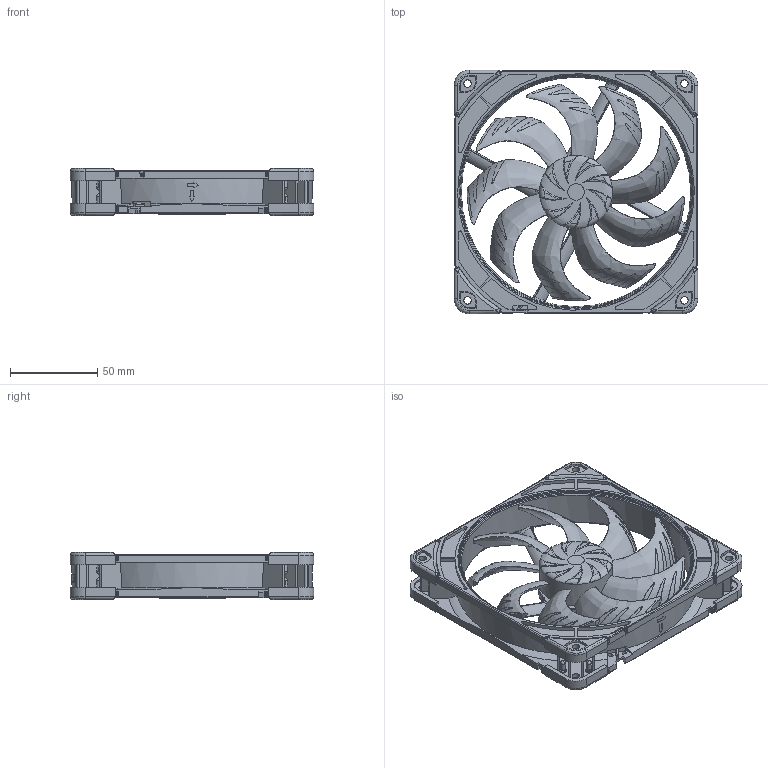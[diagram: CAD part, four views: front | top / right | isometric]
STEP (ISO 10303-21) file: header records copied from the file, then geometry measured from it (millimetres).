
FILE_DESCRIPTION(/* description */ ('140mm Desk Fan'),/* implementation_level */ '2;1');
FILE_NAME(/* name */ 'NF-A14x25_G2_Chromax_Public-CAD',/* time_stamp */ '2026-04-10T15:40:29+02:00',/* author */ ('Andreas'),/* organization */ ('Rascom'),/* preprocessor_version */ 'ST-DEVELOPER v18.102',/* originating_system */ 'Solid Edge',/* authorisation */ 'Unknown');
FILE_SCHEMA (('AUTOMOTIVE_DESIGN {1 0 10303 214 3 1 1}'));
Length unit declared in the file: millimetre
Products named in the file (6): NF-A14x25_G2_Chromax_Public-CAD; NF-A14x25_G2_Public-CAD; NF-A14x25_G2_Frame-Public; NF-A14x25_G2_Impeller-Public; NA-AVP1; Fan-Label-D38mm-G2-Chromax
Assembly tree (12 placements, depth 3):
  NF-A14x25_G2_Chromax_Public-CAD
    NF-A14x25_G2_Public-CAD
      NF-A14x25_G2_Frame-Public
      NF-A14x25_G2_Impeller-Public
      NA-AVP1  x8
    Fan-Label-D38mm-G2-Chromax
Bounding box: 139.8 x 139.8 x 27 mm (x, y, z)
Volume: 135468.8 mm3; surface area: 100431.6 mm2
Topology: 11 solids, 11 shells, 2141 faces, 5890 edges, 3844 vertices
Faces by surface type: plane 831, cylinder 713, bspline 208, torus 183, cone 162, sphere 44
Full cylindrical faces by diameter (mm): 3 x16, 4.3 x8, 38 x2, 41.858 x1, 131.8 x1
Entity records: 71435 total; most frequent: CARTESIAN_POINT 38139, ORIENTED_EDGE 8194, DIRECTION 4349, EDGE_CURVE 4097, VERTEX_POINT 2715, B_SPLINE_CURVE_WITH_KNOTS 2680, EDGE_LOOP 1738, FACE_BOUND 1738
